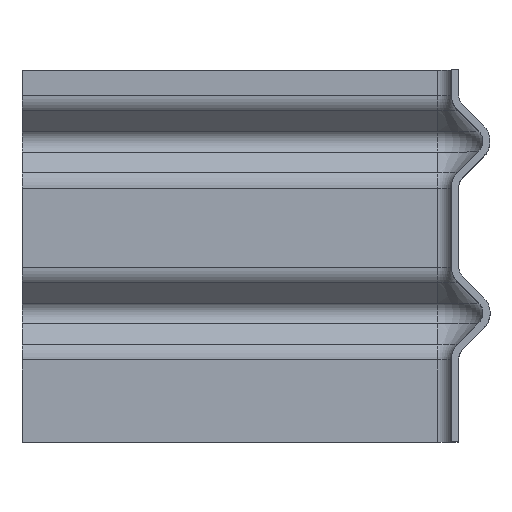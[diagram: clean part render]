
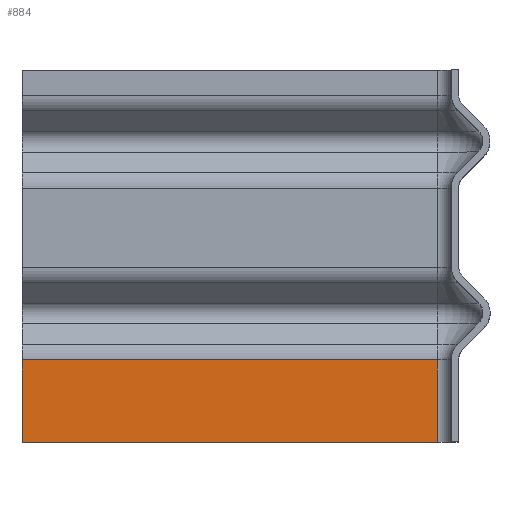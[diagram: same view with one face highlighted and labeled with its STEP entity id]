
A CAD part, top view. The second image highlights one B-rep face of the part: STEP entity #884.
In plain terms, the highlighted planar face has unit normal (0, 0, 1).
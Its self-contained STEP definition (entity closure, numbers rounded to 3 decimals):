
#826=CARTESIAN_POINT('',(-150.0,28.822,-150.0));
#827=VERTEX_POINT('',#826);
#835=CARTESIAN_POINT('',(-5.,28.822,-150.0));
#836=VERTEX_POINT('',#835);
#837=CARTESIAN_POINT('',(-5.,28.822,-150.0));
#838=DIRECTION('',(-1.0,0.0,0.0));
#839=VECTOR('',#838,145.0);
#840=LINE('',#837,#839);
#841=EDGE_CURVE('',#836,#827,#840,.T.);
#854=CARTESIAN_POINT('',(-5.,28.822,-150.0));
#855=DIRECTION('',(0.0,0.0,1.0));
#856=DIRECTION('',(1.0,0.0,0.0));
#857=AXIS2_PLACEMENT_3D('',#854,#855,#856);
#858=PLANE('',#857);
#859=CARTESIAN_POINT('',(-150.0,0.0,-150.0));
#860=VERTEX_POINT('',#859);
#861=CARTESIAN_POINT('',(-150.0,28.822,-150.0));
#862=DIRECTION('',(0.0,-1.0,0.0));
#863=VECTOR('',#862,28.822);
#864=LINE('',#861,#863);
#865=EDGE_CURVE('',#827,#860,#864,.T.);
#866=ORIENTED_EDGE('',*,*,#865,.T.);
#867=CARTESIAN_POINT('',(-5.,0.0,-150.0));
#868=VERTEX_POINT('',#867);
#869=CARTESIAN_POINT('',(-5.,0.0,-150.0));
#870=DIRECTION('',(-1.0,0.0,0.0));
#871=VECTOR('',#870,145.0);
#872=LINE('',#869,#871);
#873=EDGE_CURVE('',#868,#860,#872,.T.);
#874=ORIENTED_EDGE('',*,*,#873,.F.);
#875=CARTESIAN_POINT('',(-5.0,28.822,-150.0));
#876=DIRECTION('',(0.0,-1.0,0.0));
#877=VECTOR('',#876,28.822);
#878=LINE('',#875,#877);
#879=EDGE_CURVE('',#836,#868,#878,.T.);
#880=ORIENTED_EDGE('',*,*,#879,.F.);
#881=ORIENTED_EDGE('',*,*,#841,.T.);
#882=EDGE_LOOP('',(#866,#874,#880,#881));
#883=FACE_OUTER_BOUND('',#882,.T.);
#884=ADVANCED_FACE('',(#883),#858,.T.);
